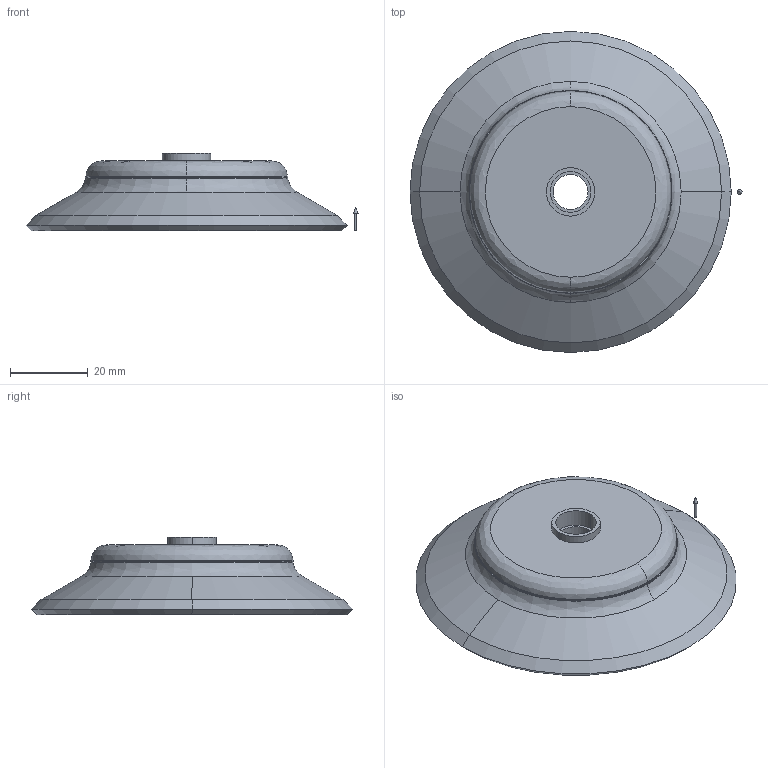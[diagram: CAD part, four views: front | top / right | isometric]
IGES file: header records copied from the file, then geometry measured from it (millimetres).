
Start section: 3D InterOp IGES (v. 2018 1.0.2), Spatial Corp. Copyright (c) 1999-2017.
Global section: file name: schmalz_10_01_01_00079_3hcin29rvno350b9edz52dksh.igs; native system: Spatial Corp.; preprocessor: 3D InterOp ACIS/IGES; author: TraceParts; organization: TraceParts S.A.; date: 20181122.044422; units: millimetre
Bounding box: 85.61 x 82.83 x 20 mm (x, y, z)
Surface area: 13155.5 mm2 (no closed solid volume)
Topology: 0 solids, 0 shells, 44 faces, 188 edges, 186 vertices
Faces by surface type: revolution 37, extrusion 7
